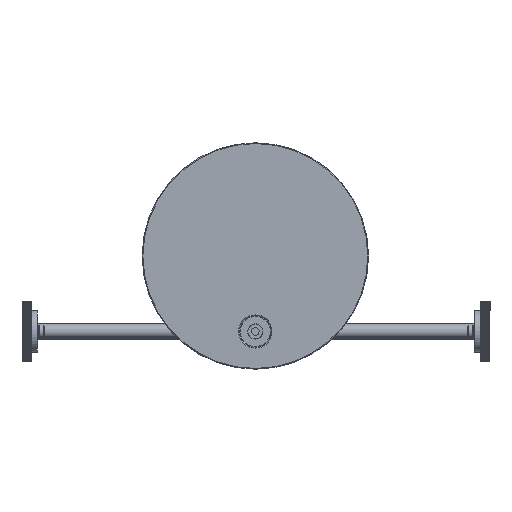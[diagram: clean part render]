
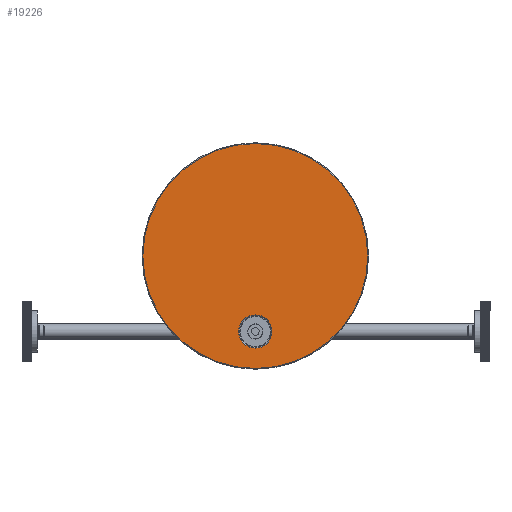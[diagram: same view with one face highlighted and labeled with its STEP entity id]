
A CAD part, front view. The second image highlights one B-rep face of the part: STEP entity #19226.
In plain terms, the highlighted planar face has unit normal (0, -1, 0).
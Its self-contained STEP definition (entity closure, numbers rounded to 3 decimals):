
#362 = ORIENTED_EDGE ( 'NONE', *, *, #21514, .T. ) ;
#1270 = DIRECTION ( 'NONE',  ( 0., 1., 0. ) ) ;
#1472 = DIRECTION ( 'NONE',  ( 0., 0., 1. ) ) ;
#2115 = CARTESIAN_POINT ( 'NONE',  ( 0., 0., -74.5 ) ) ;
#2207 = DIRECTION ( 'NONE',  ( 0., -1., 0. ) ) ;
#2281 = ORIENTED_EDGE ( 'NONE', *, *, #11974, .T. ) ;
#2649 = DIRECTION ( 'NONE',  ( 0., 0., 1. ) ) ;
#2986 = CARTESIAN_POINT ( 'NONE',  ( 0., 0., 0. ) ) ;
#4535 = FACE_OUTER_BOUND ( 'NONE', #6241, .T. ) ;
#4951 = AXIS2_PLACEMENT_3D ( 'NONE', #20264, #21734, #1472 ) ;
#6241 = EDGE_LOOP ( 'NONE', ( #362, #2281 ) ) ;
#6362 = VERTEX_POINT ( 'NONE', #2115 ) ;
#6890 = AXIS2_PLACEMENT_3D ( 'NONE', #21533, #1270, #16348 ) ;
#6954 = EDGE_LOOP ( 'NONE', ( #17589, #15223 ) ) ;
#7240 = CARTESIAN_POINT ( 'NONE',  ( 0., 0., 0. ) ) ;
#8190 = AXIS2_PLACEMENT_3D ( 'NONE', #7240, #2207, #15920 ) ;
#8546 = VERTEX_POINT ( 'NONE', #9503 ) ;
#9449 = VERTEX_POINT ( 'NONE', #20723 ) ;
#9486 = PLANE ( 'NONE',  #6890 ) ;
#9503 = CARTESIAN_POINT ( 'NONE',  ( 0., 0., -61. ) ) ;
#11791 = CIRCLE ( 'NONE', #8190, 74.5 ) ;
#11903 = AXIS2_PLACEMENT_3D ( 'NONE', #17652, #16405, #13026 ) ;
#11974 = EDGE_CURVE ( 'NONE', #6362, #13353, #11791, .T. ) ;
#12891 = DIRECTION ( 'NONE',  ( 0., -1., 0. ) ) ;
#13026 = DIRECTION ( 'NONE',  ( 0., 0., 1. ) ) ;
#13228 = CARTESIAN_POINT ( 'NONE',  ( 0., 0., 74.5 ) ) ;
#13303 = AXIS2_PLACEMENT_3D ( 'NONE', #2986, #12891, #2649 ) ;
#13353 = VERTEX_POINT ( 'NONE', #13228 ) ;
#15223 = ORIENTED_EDGE ( 'NONE', *, *, #15805, .T. ) ;
#15474 = CIRCLE ( 'NONE', #11903, 11. ) ;
#15805 = EDGE_CURVE ( 'NONE', #9449, #8546, #16824, .T. ) ;
#15920 = DIRECTION ( 'NONE',  ( 0., 0., 1. ) ) ;
#16348 = DIRECTION ( 'NONE',  ( 0., 0., 1. ) ) ;
#16405 = DIRECTION ( 'NONE',  ( 0., 1., 0. ) ) ;
#16681 = FACE_BOUND ( 'NONE', #6954, .T. ) ;
#16824 = CIRCLE ( 'NONE', #4951, 11. ) ;
#17589 = ORIENTED_EDGE ( 'NONE', *, *, #18195, .T. ) ;
#17652 = CARTESIAN_POINT ( 'NONE',  ( 0., 0., -50. ) ) ;
#18195 = EDGE_CURVE ( 'NONE', #8546, #9449, #15474, .T. ) ;
#19226 = ADVANCED_FACE ( 'NONE', ( #16681, #4535 ), #9486, .F. ) ;
#19783 = CIRCLE ( 'NONE', #13303, 74.5 ) ;
#20264 = CARTESIAN_POINT ( 'NONE',  ( 0., 0., -50. ) ) ;
#20723 = CARTESIAN_POINT ( 'NONE',  ( 0., 0., -39. ) ) ;
#21514 = EDGE_CURVE ( 'NONE', #13353, #6362, #19783, .T. ) ;
#21533 = CARTESIAN_POINT ( 'NONE',  ( 0., 0., 0. ) ) ;
#21734 = DIRECTION ( 'NONE',  ( 0., 1., 0. ) ) ;
